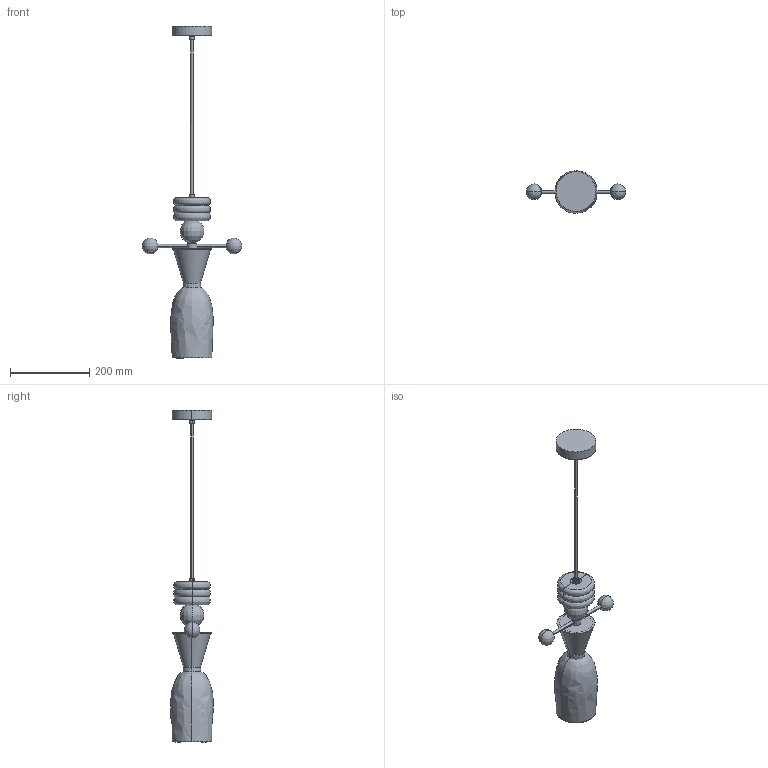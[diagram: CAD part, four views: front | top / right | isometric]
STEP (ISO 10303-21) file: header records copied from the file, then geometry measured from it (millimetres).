
FILE_DESCRIPTION (( 'STEP AP214' ), '1' );
FILE_NAME ('NURO_C1349.STEP', '2025-09-04T14:46:43', ( '' ), ( '' ), 'SwSTEP 2.0', 'SolidWorks 2018', '' );
FILE_SCHEMA (( 'AUTOMOTIVE_DESIGN' ));
Length unit declared in the file: millimetre
Products named in the file (1): NURO_C1349
Bounding box: 250.95 x 107.97 x 836.61 mm (x, y, z)
Surface area: 395369.4 mm2 (no closed solid volume)
Topology: 0 solids, 76 shells, 852 faces, 1917 edges, 1154 vertices
Faces by surface type: bspline 848, cylinder 2, plane 2
Entity records: 41578 total; most frequent: CARTESIAN_POINT 30808, ORIENTED_EDGE 3590, EDGE_CURVE 1906, VERTEX_POINT 1154, B_SPLINE_CURVE_WITH_KNOTS 1004, EDGE_LOOP 921, FACE_OUTER_BOUND 855, ADVANCED_FACE 855
